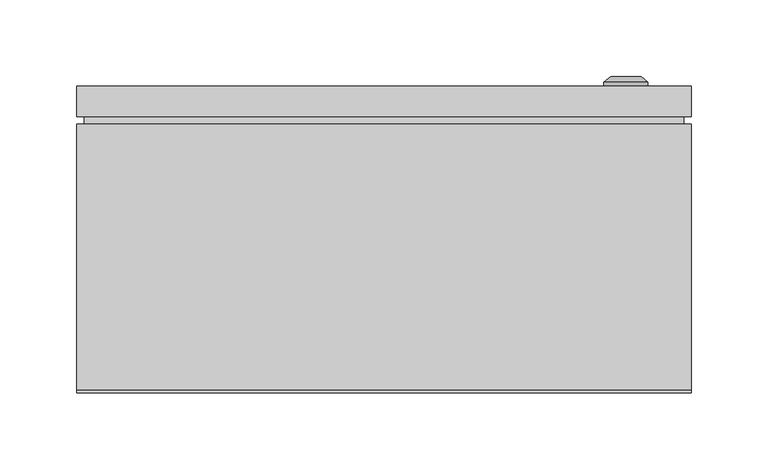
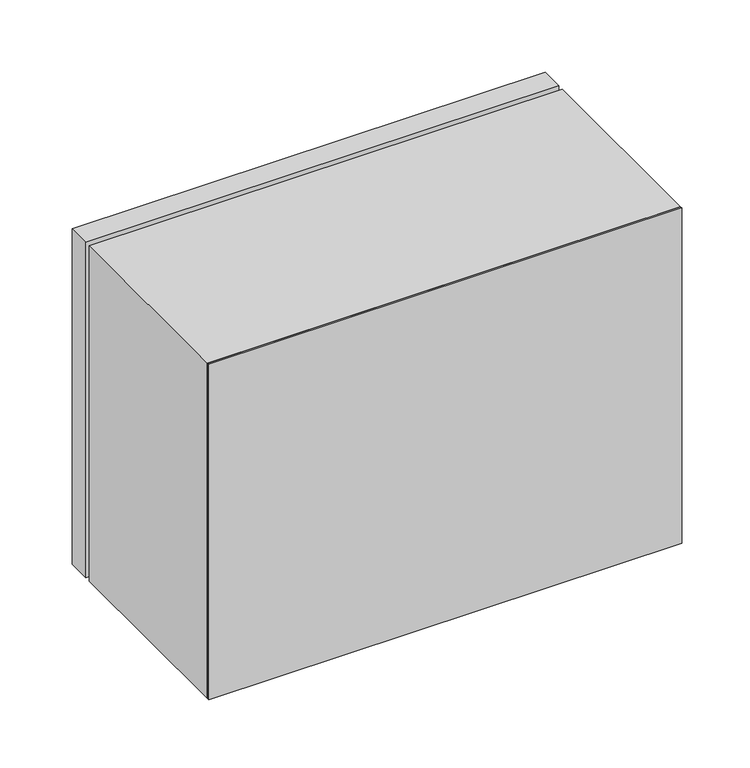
"""IFC4 building model written with IfcOpenShell, lengths in millimetres: proxy geometry, ЩМП_IP65 : ЩМП-3.4.2-0_300х400х200."""

from ifc_helpers import new_model, si_unit, frame, origin, origin_with_axes, place, context, project, spatial, polyline, circle_curve, outline, extrude, source, transform, mapped, element, save
from ifc_brep_helpers import plane_surface, cylinder_surface, revolved_surface, advanced_brep


def electrical_equipment_665021a5(model_context):
    return source(origin(), model_context, "Body", "SolidModel", [
        extrude(outline(polyline([(195.0, 175.0), (-195.0, 175.0), (-195.0, 180.0), (195.0, 180.0), (195.0, 175.0)])), frame((0.0, 0.0, 5.0), z_axis=(0.0, 0.0, 1.0), x_axis=(1.0, 0.0, 0.0)), (0.0, 0.0, 1.0), 290.0),
        extrude(outline(polyline([(200.0, 180.0), (-200.0, 180.0), (-200.0, 200.0), (200.0, 200.0), (200.0, 180.0)])), origin_with_axes(), (0.0, 0.0, 1.0), 300.0),
        advanced_brep(
        [(143.169873, 200.0, 152.5), (171.830127, 200.0, 152.5), (157.5, 200.0, 152.5), (143.169873, 202.366592, 152.5), (171.830127, 202.366592, 152.5), (147.5, 206.0, 152.5), (167.5, 206.0, 152.5), (155.6080471, 206.0, 152.5), (159.3919529, 206.0, 152.5), (155.6080471, 204.9822294, 152.5), (159.3919529, 204.9822294, 152.5), (157.5, 204.9822294, 152.5)],
        [
            (0, 1, circle_curve(frame((157.5, 200.0, 152.5), z_axis=(0.0, -1.0, 0.0), x_axis=(1.0, 0.0, 0.0)), 14.330127)),
            (1, 2),
            (2, 0),
            (1, 0, circle_curve(frame((157.5, 200.0, 152.5), z_axis=(0.0, -1.0, 0.0), x_axis=(1.0, 0.0, 0.0)), 14.330127)),
            (3, 4, circle_curve(frame((157.5, 202.366592, 152.5), z_axis=(0.0, -1.0, 0.0), x_axis=(1.0, 0.0, 0.0)), 14.330127)),
            (4, 1),
            (0, 3),
            (4, 3, circle_curve(frame((157.5, 202.366592, 152.5), z_axis=(0.0, -1.0, 0.0), x_axis=(1.0, 0.0, 0.0)), 14.330127)),
            (5, 6, circle_curve(frame((157.5, 206.0, 152.5), z_axis=(0.0, -1.0, 0.0), x_axis=(1.0, 0.0, 0.0)), 10.0)),
            (6, 4),
            (3, 5),
            (6, 5, circle_curve(frame((157.5, 206.0, 152.5), z_axis=(0.0, -1.0, 0.0), x_axis=(1.0, 0.0, 0.0)), 10.0)),
            (7, 8, circle_curve(frame((157.5, 206.0, 152.5), z_axis=(0.0, -1.0, 0.0), x_axis=(1.0, 0.0, 0.0)), 1.8919529)),
            (8, 6),
            (5, 7),
            (8, 7, circle_curve(frame((157.5, 206.0, 152.5), z_axis=(0.0, -1.0, 0.0), x_axis=(1.0, 0.0, 0.0)), 1.8919529)),
            (9, 10, circle_curve(frame((157.5, 204.9822294, 152.5), z_axis=(0.0, -1.0, 0.0), x_axis=(1.0, 0.0, 0.0)), 1.8919529)),
            (10, 8),
            (7, 9),
            (10, 9, circle_curve(frame((157.5, 204.9822294, 152.5), z_axis=(0.0, -1.0, 0.0), x_axis=(1.0, 0.0, 0.0)), 1.8919529)),
            (11, 10),
            (9, 11),
        ],
        [
            plane_surface(frame((157.5, 200.0, 152.5), z_axis=(0.0, -1.0, 0.0), x_axis=(1.0, 0.0, 0.0))),
            cylinder_surface(frame((157.5, 213.1348851, 152.5), z_axis=(0.0, 1.0, 0.0), x_axis=(1.0, 0.0, 0.0)), 14.330127),
            revolved_surface(polyline([(171.830127, 202.366592, 152.5), (167.5, 206.0, 152.5)]), (157.5, 213.1348851, 152.5), (0.0, 1.0, 0.0)),
            plane_surface(frame((157.5, 206.0, 152.5), z_axis=(0.0, 1.0, 0.0), x_axis=(1.0, 0.0, 0.0))),
            revolved_surface(polyline([(159.3919529, 206.0, 152.5), (159.3919529, 204.9822294, 152.5)]), (157.5, 213.1348851, 152.5), (0.0, 1.0, 0.0)),
            plane_surface(frame((157.5, 204.9822294, 152.5), z_axis=(0.0, 1.0, 0.0), x_axis=(1.0, 0.0, 0.0))),
        ],
        [
            (0, [[1, 2, 3]]),
            (0, [[4, -3, -2]]),
            (1, [[5, 6, -1, 7]]),
            (1, [[8, -7, -4, -6]]),
            (2, [[9, 10, -5, 11]]),
            (2, [[12, -11, -8, -10]]),
            (3, [[13, 14, -9, 15]]),
            (3, [[16, -15, -12, -14]]),
            (4, [[17, 18, -13, 19]]),
            (4, [[20, -19, -16, -18]]),
            (5, [[21, -17, 22]]),
            (5, [[-22, -20, -21]]),
        ],
    ),
        extrude(outline(polyline([(300.0, -200.0033905), (0.0, -200.0033905), (0.0, 199.9966095), (300.0, 199.9966095), (300.0, -200.0033905)]), holes=[polyline([(265.0, -167.5033905), (265.0, 167.4966095), (40.0, 167.4966095), (40.0, -167.5033905), (265.0, -167.5033905)])]), frame((0.0, 2.0, 0.0), z_axis=(0.0, 1.0, 0.0), x_axis=(0.0, 0.0, 1.0)), (0.0, 0.0, 1.0), 173.0),
        extrude(outline(polyline([(200.0, 0.0), (-200.0, 0.0), (-200.0, 2.0), (200.0, 2.0), (200.0, 0.0)])), origin_with_axes(), (0.0, 0.0, 1.0), 300.0),
    ])


if __name__ == "__main__":
    model = new_model("IFC4")
    model_context = context("Model", 3, world=origin())
    ifc_project = project(units=[si_unit("LENGTHUNIT", "METRE", prefix="MILLI")], contexts=[model_context])
    site = spatial("IfcSite", under=ifc_project)
    building = spatial("IfcBuilding", under=site)
    placement = place(None, origin())
    electrical_equipment_shape = electrical_equipment_665021a5(model_context)
    element("IfcBuildingElementProxy", 1, Name="ЩМП_IP65 : ЩМП-3.4.2-0_300х400х200", ObjectType="ЩМП_IP65 : ЩМП-3.4.2-0_300х400х200", at=placement, inside=building, context=model_context, shape_type="MappedRepresentation", body=[
        mapped(electrical_equipment_shape, transform((0.0, 0.0, 0.0), x_axis=(1.0, 0.0, 0.0), y_axis=(0.0, 1.0, 0.0), z_axis=(0.0, 0.0, 1.0))),
    ])
    save(model, "model.ifc")
